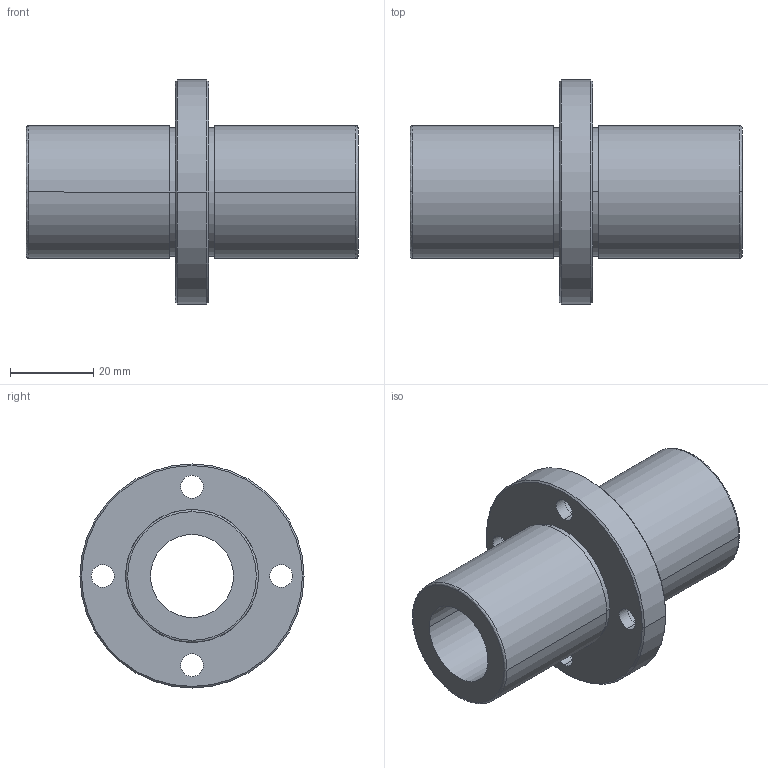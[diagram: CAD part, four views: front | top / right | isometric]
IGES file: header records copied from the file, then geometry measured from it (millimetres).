
Start section: 3D InterOp IGES (Version 21 0 1), Spatial Corp. Copyright (c) 1999-2007.
Global section: file name: NFCD-20VLUU.igs; native system: Spatial Corp.; preprocessor: 3D InterOp GENERIC/IGES 3.0; author: Noname; organization: Noname; date: 20220308.131903; units: millimetre
Bounding box: 80 x 54 x 54 mm (x, y, z)
Surface area: 18226.4 mm2 (no closed solid volume)
Topology: 0 solids, 0 shells, 46 faces, 210 edges, 210 vertices
Faces by surface type: revolution 36, extrusion 10
